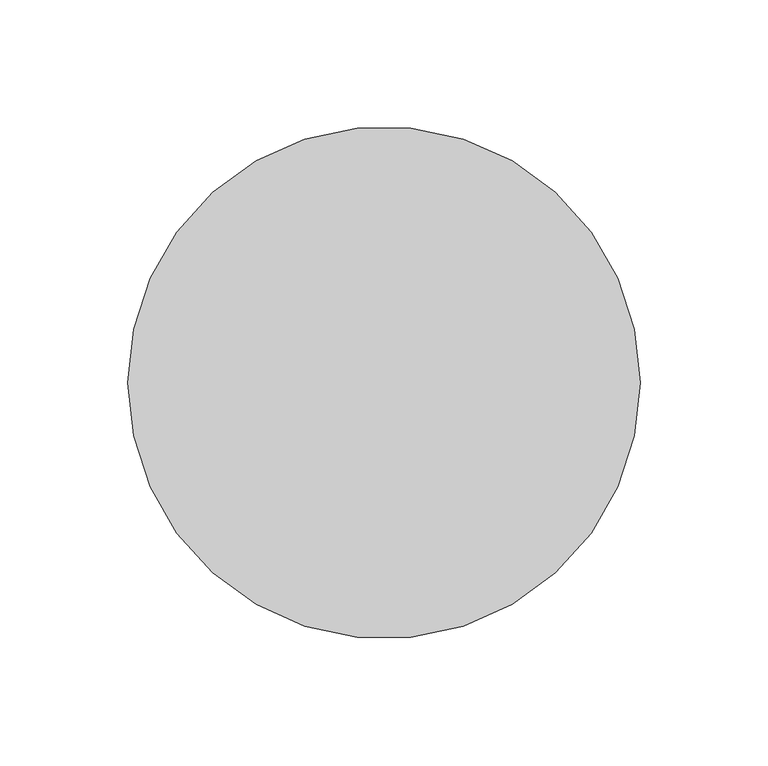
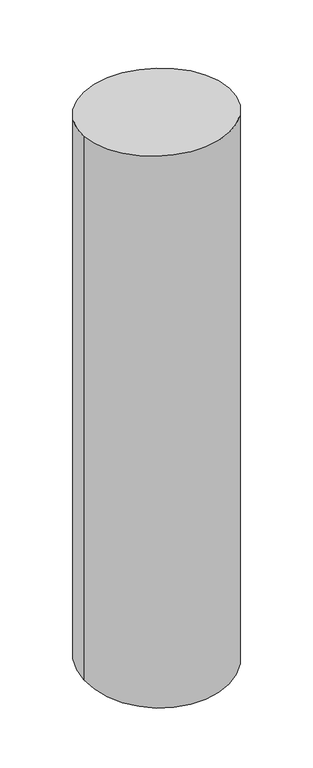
"""IFC4 building model written with IfcOpenShell, lengths in millimetres: member geometry, 矩形竖梃 : 圆瓦."""

from ifc_helpers import new_model, si_unit, frame, origin, origin_with_axes, place, context, project, spatial, ellipse_curve, source, transform, mapped, element, save
from ifc_brep_helpers import plane_surface, cylinder_surface, advanced_brep


def member_f81221a5(model_context):
    return source(origin(), model_context, "Body", "AdvancedBrep", [
        advanced_brep(
        [(-100.0, 0.0, 0.0), (100.0, 0.0, 0.0), (100.0, 0.0, -790.1124317), (-100.0, 0.0, -790.1124317)],
        [
            (0, 1, ellipse_curve(frame((0.0, 0.0, 0.0), z_axis=(0.0, -0.06767279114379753, -0.9977075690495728), x_axis=(0.0, -0.9977075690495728, 0.06767279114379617)), 100.2297698, 100.0)),
            (1, 2),
            (2, 3, ellipse_curve(frame((0.0, 0.0, -790.1124317), z_axis=(0.0, -0.067672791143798, 0.9977075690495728), x_axis=(0.0, 0.9977075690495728, 0.0676727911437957)), 100.2297698, 100.0)),
            (3, 0),
            (1, 0, ellipse_curve(frame((0.0, 0.0, 0.0), z_axis=(0.0, -0.06767279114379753, -0.9977075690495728), x_axis=(0.0, -0.9977075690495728, 0.06767279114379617)), 100.2297698, 100.0)),
            (3, 2, ellipse_curve(frame((0.0, 0.0, -790.1124317), z_axis=(0.0, -0.067672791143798, 0.9977075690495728), x_axis=(0.0, 0.9977075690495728, 0.0676727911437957)), 100.2297698, 100.0)),
        ],
        [
            cylinder_surface(origin_with_axes(), 100.0),
            plane_surface(frame((-304.8, 0.0, 0.0), z_axis=(0.0, 0.06767279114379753, 0.9977075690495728), x_axis=(0.0, 0.9977075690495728, -0.06767279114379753))),
            plane_surface(frame((-304.8, 0.0, -790.1124317), z_axis=(0.0, 0.067672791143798, -0.9977075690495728), x_axis=(0.0, 0.9977075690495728, 0.067672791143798))),
        ],
        [
            (0, [[1, 2, 3, 4]]),
            (0, [[5, -4, 6, -2]]),
            (1, [[-1, -5]]),
            (2, [[-6, -3]]),
        ],
    ),
    ])


if __name__ == "__main__":
    model = new_model("IFC4")
    model_context = context("Model", 3, world=origin())
    ifc_project = project(units=[si_unit("LENGTHUNIT", "METRE", prefix="MILLI")], contexts=[model_context])
    site = spatial("IfcSite", under=ifc_project)
    building = spatial("IfcBuilding", under=site)
    placement = place(None, origin())
    member_shape = member_f81221a5(model_context)
    element("IfcMember", 1, ObjectType="矩形竖梃 : 圆瓦", at=placement, inside=building, context=model_context, shape_type="MappedRepresentation", body=[
        mapped(member_shape, transform((0.0, 0.0, 0.0), x_axis=(1.0, 0.0, 0.0), y_axis=(0.0, 1.0, 0.0), z_axis=(0.0, 0.0, 1.0))),
    ])
    save(model, "model.ifc")
